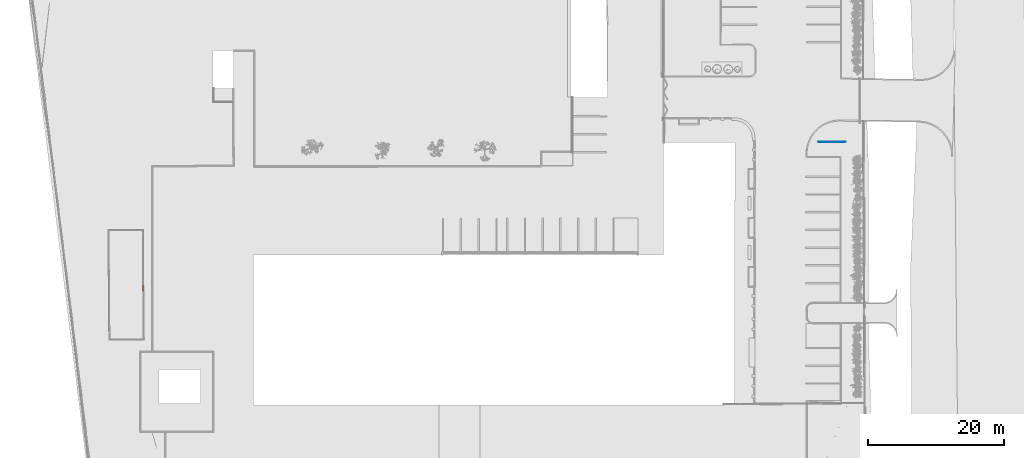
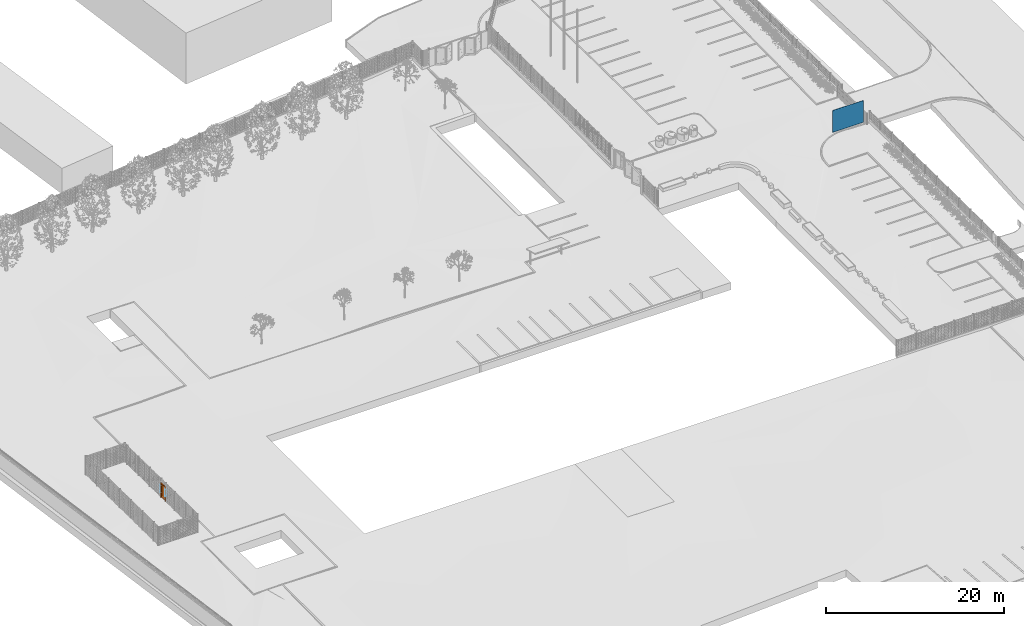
# One storey, part 5 of 1809: 1 discrete accessory, 1 proxy, 1 opening, plus 1 element that does not belong to this part.
"""IFC2X3 building model written with IfcOpenShell, lengths in millimetres."""

from ifc_helpers import new_model, entity, si_unit, converted_unit, derived_unit, money_unit, direction, frame, origin_with_axes, origin_2d_with_axis, place, context, subcontext, project, spatial, polyline, rectangle, outline, extrude, open_shell, faceted_brep, surface_model, material, layer, layer_set, layer_usage, type_object, element, fill, save


model = new_model("IFC2X3")

# Units and contexts
model_context = context("Model", 3, precision=0.01, world=origin_with_axes(), true_north=direction((0.0, 1.0)))
body_context = subcontext(model_context, "Body", "Model", "MODEL_VIEW")
ifc_project = project(units=[si_unit("LENGTHUNIT", "METRE", prefix="MILLI"), si_unit("AREAUNIT", "SQUARE_METRE"), si_unit("VOLUMEUNIT", "CUBIC_METRE"), converted_unit("PLANEANGLEUNIT", "DEGREE", entity("IfcPlaneAngleMeasure", 0.0174532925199), si_unit("PLANEANGLEUNIT", "RADIAN"), dimensions=[0, 0, 0, 0, 0, 0, 0]), si_unit("SOLIDANGLEUNIT", "STERADIAN"), money_unit("EUR"), converted_unit("TIMEUNIT", "Year", entity("IfcTimeMeasure", 31556926.0), si_unit("TIMEUNIT", "SECOND"), dimensions=[0, 0, 1, 0, 0, 0, 0]), si_unit("MASSUNIT", "GRAM", prefix="KILO"), si_unit("THERMODYNAMICTEMPERATUREUNIT", "DEGREE_CELSIUS"), si_unit("LUMINOUSINTENSITYUNIT", "LUMEN"), si_unit("ENERGYUNIT", "JOULE", prefix="MEGA"), derived_unit("THERMALCONDUCTANCEUNIT", [(si_unit("POWERUNIT", "WATT"), 1), (si_unit("LENGTHUNIT", "METRE"), -1), (si_unit("THERMODYNAMICTEMPERATUREUNIT", "KELVIN"), -1)]), derived_unit("SPECIFICHEATCAPACITYUNIT", [(si_unit("ENERGYUNIT", "JOULE"), 1), (si_unit("MASSUNIT", "GRAM", prefix="KILO"), -1), (si_unit("THERMODYNAMICTEMPERATUREUNIT", "KELVIN"), -1)]), derived_unit("MASSDENSITYUNIT", [(si_unit("MASSUNIT", "GRAM", prefix="KILO"), 1), (si_unit("VOLUMEUNIT", "CUBIC_METRE"), -1)])], contexts=[model_context])

# Site, building, storey
site_placement = place(None, origin_with_axes())
site = spatial("IfcSite", under=ifc_project, at=site_placement, Name="Politse- ja Piirivalveameti ning Päästeameti ühishoone", CompositionType="ELEMENT")
building_placement = place(site_placement, origin_with_axes())
building = spatial("IfcBuilding", under=site, at=building_placement, Name="Politse- ja Piirivalveameti ning Päästeameti ühishoone", CompositionType="ELEMENT")
storey_placement = place(building_placement, origin_with_axes())
storey = spatial("IfcBuildingStorey", under=building, at=storey_placement, Name="Esimene korrus", CompositionType="ELEMENT", Elevation=0.0)

# Wall, opening, proxy
ifc_material = material(Name="KON-00_GENEERILINE - KONSTRUKTSIOON")
ifc_layer = layer(ifc_material, 80.0, ventilated="UNKNOWN")
ifc_layer_set = layer_set([ifc_layer], Name="KON-00_GENEERILINE - KONSTRUKTSIOON 80")
ifc_layer_usage = layer_usage(ifc_layer_set, "AXIS2", "POSITIVE", -40.0)
wall_type = type_object("IfcWallType", Name="KON-00_GENEERILINE - KONSTRUKTSIOON 80", PredefinedType="NOTDEFINED")
wall_placement = place(storey_placement, frame((-16711.4684256, 17109.1850623, 700.0), z_axis=(0.0, 0.0, 1.0), x_axis=(0.0160835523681, -0.999870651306, 0.0)))
wall = element("IfcWallStandardCase", 1, at=wall_placement, inside=storey, type_object=wall_type, material=ifc_layer_usage, Name="Välissein", context=body_context, shape_type="SweptSolid", body=[
    extrude(outline(polyline([(0.0, -40.0), (1000.2366672, -40.0), (1000.2366672, 40.0), (0.0, 40.0), (0.0, -40.0)])), origin_with_axes(), (0.0, 0.0, 1.0), 1025.00507935),
])
opening_placement = place(wall_placement, frame((500.179735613, 0.0, -700.0), z_axis=(0.0, 0.0, 1.0), x_axis=(1.0, 0.0, 0.0)))
opening = element("IfcOpeningElement", 2, at=opening_placement, cuts=wall, Name="JALGV2RAV", context=body_context, shape_type="SweptSolid", body=[
    extrude(rectangle(XDim=1000.0, YDim=2000.0, at=origin_2d_with_axis()), frame((0.0, -80.0, 1000.0), z_axis=(0.0, 1.0, 0.0), x_axis=(1.0, 0.0, 0.0)), (0.0, 0.0, 1.0), 240.0),
])
building_element_proxy_type = type_object("IfcBuildingElementProxyType", Name="Door 23", PredefinedType="NOTDEFINED")
proxy_placement = place(opening_placement, frame((-500.0, 0.0, 0.0), z_axis=(0.0, 0.0, 1.0), x_axis=(1.0, 0.0, 0.0)))
proxy = element("IfcBuildingElementProxy", 3, at=proxy_placement, inside=storey, type_object=building_element_proxy_type, Name="JALGV2RAV", context=body_context, shape_type="SurfaceModel", body=[
    faceted_brep([(40.0, 0.0, 0.0), (40.0, 0.0, 1960.0), (40.0, -75.0, 1960.0), (40.0, -75.0, 0.0), (28.0, 0.0, 1960.0), (28.0, 0.0, 0.0), (28.0, 40.0, 1960.0), (0.0, 40.0, 1960.0), (0.0, -75.0, 1960.0), (0.0, -75.0, 0.0), (0.0, 40.0, 0.0), (28.0, 40.0, 0.0)], [[[0, 1, 2, 3]], [[4, 1, 0, 5]], [[4, 6, 7, 8, 2, 1]], [[3, 2, 8, 9]], [[5, 0, 3, 9, 10, 11]], [[6, 4, 5, 11]], [[6, 11, 10, 7]], [[10, 9, 8, 7]]]),
    faceted_brep([(972.0, 0.0, 1960.0), (960.0, 0.0, 1960.0), (960.0, -75.0, 1960.0), (1000.0, -75.0, 1960.0), (1000.0, 40.0, 1960.0), (972.0, 40.0, 1960.0), (972.0, 0.0, 0.0), (960.0, 0.0, 0.0), (960.0, -75.0, 0.0), (1000.0, -75.0, 0.0), (1000.0, 40.0, 0.0), (972.0, 40.0, 0.0)], [[[0, 1, 2, 3, 4, 5]], [[1, 0, 6, 7]], [[1, 7, 8, 2]], [[3, 2, 8, 9]], [[4, 3, 9, 10]], [[11, 5, 4, 10]], [[0, 5, 11, 6]], [[6, 11, 10, 9, 8, 7]]]),
    faceted_brep([(28.0, 40.0, 1972.0), (28.0, 40.0, 1960.0), (0.0, 40.0, 1960.0), (0.0, 40.0, 2000.0), (1000.0, 40.0, 2000.0), (1000.0, 40.0, 1960.0), (972.0, 40.0, 1960.0), (972.0, 40.0, 1972.0), (28.0, 0.0, 1972.0), (28.0, 0.0, 1960.0), (40.0, 0.0, 1960.0), (40.0, -75.0, 1960.0), (0.0, -75.0, 1960.0), (0.0, -75.0, 2000.0), (1000.0, -75.0, 2000.0), (1000.0, -75.0, 1960.0), (972.0, 0.0, 1960.0), (960.0, -75.0, 1960.0), (960.0, 0.0, 1960.0), (972.0, 0.0, 1972.0)], [[[0, 1, 2, 3, 4, 5, 6, 7]], [[1, 0, 8, 9]], [[9, 10, 11, 12, 2, 1]], [[2, 12, 13, 3]], [[3, 13, 14, 4]], [[4, 14, 15, 5]], [[16, 6, 5, 15, 17, 18]], [[7, 6, 16, 19]], [[0, 7, 19, 8]], [[16, 18, 10, 9, 8, 19]], [[10, 18, 17, 11]], [[17, 15, 14, 13, 12, 11]]]),
    faceted_brep([(972.0, 40.0, 200.0), (972.0, 0.0, 200.0), (872.0, 0.0, 200.0), (872.0, 40.0, 200.0), (972.0, 40.0, 1872.0), (972.0, 0.0, 1872.0), (872.0, 0.0, 1872.0), (872.0, 40.0, 1872.0)], [[[0, 1, 2, 3]], [[4, 5, 1, 0]], [[1, 5, 6, 2]], [[3, 2, 6, 7]], [[0, 3, 7, 4]], [[7, 6, 5, 4]]]),
    faceted_brep([(28.0, 40.0, 200.0), (28.0, 0.0, 200.0), (28.0, 0.0, 1872.0), (28.0, 40.0, 1872.0), (128.0, 40.0, 200.0), (128.0, 0.0, 200.0), (128.0, 0.0, 1872.0), (128.0, 40.0, 1872.0)], [[[0, 1, 2, 3]], [[4, 5, 1, 0]], [[1, 5, 6, 2]], [[3, 2, 6, 7]], [[0, 3, 7, 4]], [[7, 6, 5, 4]]]),
    faceted_brep([(972.0, 40.0, 0.0), (972.0, 0.0, 0.0), (28.0, 0.0, 0.0), (28.0, 40.0, 0.0), (972.0, 40.0, 200.0), (972.0, 0.0, 200.0), (872.0, 0.0, 200.0), (128.0, 0.0, 200.0), (28.0, 0.0, 200.0), (28.0, 40.0, 200.0), (128.0, 40.0, 200.0), (872.0, 40.0, 200.0)], [[[0, 1, 2, 3]], [[4, 5, 1, 0]], [[1, 5, 6, 7, 8, 2]], [[3, 2, 8, 9]], [[0, 3, 9, 10, 11, 4]], [[11, 6, 5, 4]], [[10, 7, 6, 11]], [[9, 8, 7, 10]]]),
    faceted_brep([(972.0, 40.0, 1972.0), (972.0, 0.0, 1972.0), (972.0, 0.0, 1872.0), (972.0, 40.0, 1872.0), (28.0, 40.0, 1972.0), (28.0, 0.0, 1972.0), (28.0, 0.0, 1872.0), (128.0, 0.0, 1872.0), (872.0, 0.0, 1872.0), (872.0, 40.0, 1872.0), (128.0, 40.0, 1872.0), (28.0, 40.0, 1872.0)], [[[0, 1, 2, 3]], [[4, 5, 1, 0]], [[1, 5, 6, 7, 8, 2]], [[3, 2, 8, 9]], [[0, 3, 9, 10, 11, 4]], [[11, 6, 5, 4]], [[10, 7, 6, 11]], [[9, 8, 7, 10]]]),
    surface_model("IfcShellBasedSurfaceModel", [(872.0, 26.0, 200.0), (128.0, 26.0, 200.0), (128.0, 26.0, 1872.0), (872.0, 26.0, 1872.0)], [open_shell([[[0, 1, 2, 3]]])]),
    surface_model("IfcShellBasedSurfaceModel", [(872.0, 14.0, 200.0), (872.0, 14.0, 1872.0), (128.0, 14.0, 1872.0), (128.0, 14.0, 200.0)], [open_shell([[[0, 1, 2, 3]]])]),
])
fill(opening, proxy)

# Discrete accessory
discrete_accessory_type = type_object("IfcDiscreteAccessoryType", Name="Flat Panel TV 23")
discrete_accessory_placement = place(storey_placement, frame((86427.9293482, 38143.7264135, 2499.9), z_axis=(0.0, 0.0, 1.0), x_axis=(-0.999999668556, 0.000814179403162, 0.0)))
element("IfcDiscreteAccessory", 4, at=discrete_accessory_placement, inside=storey, type_object=discrete_accessory_type, Name="LED-EKRAAN", context=body_context, shape_type="Brep", body=[
    faceted_brep([(4000.1, 0.0, 0.1), (4000.1, 1.0, 0.1), (4000.1, 1.0, 3000.1), (4000.1, 0.0, 3000.1), (0.1, 0.0, 0.1), (0.1, 1.0, 0.1), (0.1, 1.0, 3000.1), (0.1, 0.0, 3000.1)], [[[0, 1, 2, 3]], [[4, 5, 1, 0]], [[1, 5, 6, 2]], [[3, 2, 6, 7]], [[0, 3, 7, 4]], [[7, 6, 5, 4]]]),
    faceted_brep([(4000.2, 0.0, 3000.2), (0.0, 0.0, 3000.2), (0.0, 0.0, 0.0), (4000.2, 0.0, 0.0), (0.1, 0.0, 0.1), (0.1, 0.0, 3000.1), (4000.1, 0.0, 3000.1), (4000.1, 0.0, 0.1), (4000.2000002, 25.0, 3000.2000002), (-3.89516419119e-07, 25.0, 3000.2000002), (-3.89516419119e-07, 25.0, -3.89516419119e-07), (4000.2000002, 25.0, -3.89516419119e-07), (0.1, 1.0, 0.1), (0.1, 1.0, 3000.1), (4000.1, 1.0, 3000.1), (4000.1, 1.0, 0.1), (3906.89872862, 50.0000003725, 2906.89872862), (93.30127119, 50.0000003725, 2906.89872862), (93.30127119, 50.0000003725, 93.30127119), (3906.89872862, 50.0000003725, 93.30127119)], [[[0, 1, 2, 3], [4, 5, 6, 7]], [[8, 9, 1, 0]], [[9, 10, 2, 1]], [[10, 11, 3, 2]], [[11, 8, 0, 3]], [[5, 4, 12, 13]], [[6, 5, 13, 14]], [[7, 6, 14, 15]], [[4, 7, 15, 12]], [[16, 17, 9, 8]], [[17, 18, 10, 9]], [[18, 19, 11, 10]], [[19, 16, 8, 11]], [[14, 13, 12, 15]], [[16, 19, 18, 17]]]),
    faceted_brep([(2000.1, -0.8, 0.025), (2000.1, 0.0, 0.025), (2040.102, 0.0, 0.05), (2040.102, -0.8, 0.05), (1960.098, -0.8, 0.05), (1960.098, 0.0, 0.05), (1600.08, 0.0, 0.075), (2400.12, 0.0, 0.075), (2400.12, -0.8, 0.075), (1600.08, -0.8, 0.075)], [[[0, 1, 2, 3]], [[4, 5, 1, 0]], [[1, 5, 6, 7, 2]], [[3, 2, 7, 8]], [[0, 3, 8, 9, 4]], [[9, 6, 5, 4]], [[8, 7, 6, 9]]]),
    faceted_brep([(533.36, 10.0, 3000.2), (533.36, 10.0, 3001.8), (266.68, 10.0, 3001.8), (266.68, 10.0, 3000.2), (533.36, 16.25, 3000.2), (533.36, 16.25, 3001.8), (266.68, 16.25, 3001.8), (266.68, 16.25, 3000.2)], [[[0, 1, 2, 3]], [[0, 4, 5, 1]], [[1, 5, 6, 2]], [[2, 6, 7, 3]], [[3, 7, 4, 0]], [[7, 6, 5, 4]]]),
    faceted_brep([(819.088571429, 10.0, 3000.2), (819.088571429, 10.0, 3001.8), (552.408571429, 10.0, 3001.8), (552.408571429, 10.0, 3000.2), (819.088571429, 16.25, 3000.2), (819.088571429, 16.25, 3001.8), (552.408571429, 16.25, 3001.8), (552.408571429, 16.25, 3000.2)], [[[0, 1, 2, 3]], [[0, 4, 5, 1]], [[1, 5, 6, 2]], [[2, 6, 7, 3]], [[3, 7, 4, 0]], [[7, 6, 5, 4]]]),
    faceted_brep([(971.477142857, 10.0, 3000.2), (971.477142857, 10.0, 3001.8), (838.137142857, 10.0, 3001.8), (838.137142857, 10.0, 3000.2), (971.477142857, 16.25, 3000.2), (971.477142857, 16.25, 3001.8), (838.137142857, 16.25, 3001.8), (838.137142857, 16.25, 3000.2)], [[[0, 1, 2, 3]], [[0, 4, 5, 1]], [[1, 5, 6, 2]], [[2, 6, 7, 3]], [[3, 7, 4, 0]], [[7, 6, 5, 4]]]),
])

save(model, "model.ifc")
